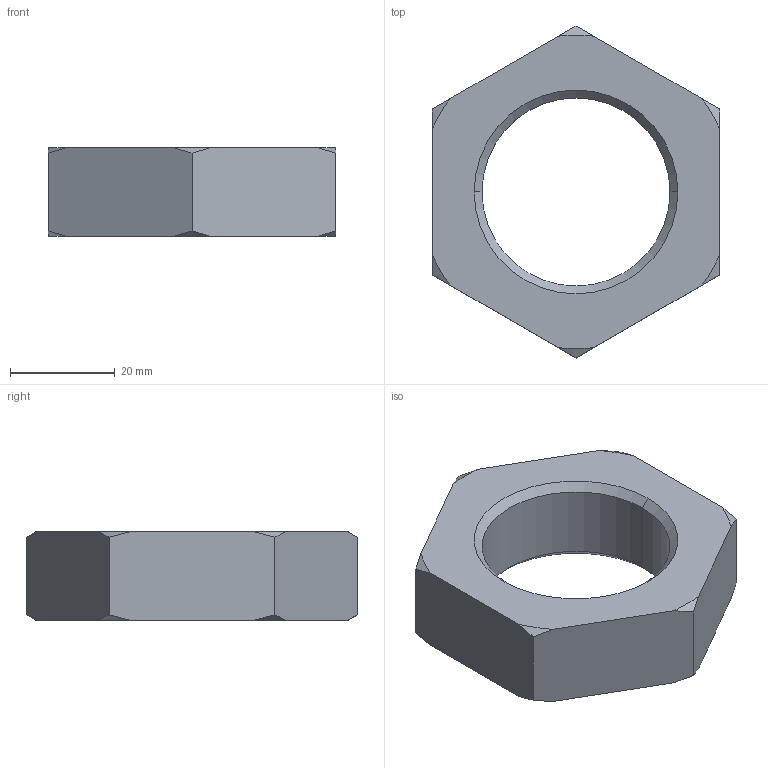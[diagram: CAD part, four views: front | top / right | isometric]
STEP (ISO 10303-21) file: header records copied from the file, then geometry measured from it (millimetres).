
FILE_DESCRIPTION (( 'STEP AP203' ), '1' );
FILE_NAME ('P0306.360-150-A2.step', '2018-12-15T14:55:57', ( '' ), ( '' ), 'SwSTEP 2.0', 'SolidWorks 2017', '' );
FILE_SCHEMA (( 'CONFIG_CONTROL_DESIGN' ));
Length unit declared in the file: millimetre
Products named in the file (1): P0306.360-150-A2
Bounding box: 55 x 63.51 x 16.9 mm (x, y, z)
Volume: 26787.3 mm3; surface area: 8107.3 mm2
Topology: 1 solids, 1 shells, 26 faces, 68 edges, 44 vertices
Faces by surface type: cone 16, plane 8, cylinder 2
Entity records: 921 total; most frequent: CARTESIAN_POINT 227, ORIENTED_EDGE 136, DIRECTION 118, EDGE_CURVE 68, AXIS2_PLACEMENT_3D 47, VERTEX_POINT 44, EDGE_LOOP 28, ADVANCED_FACE 26
